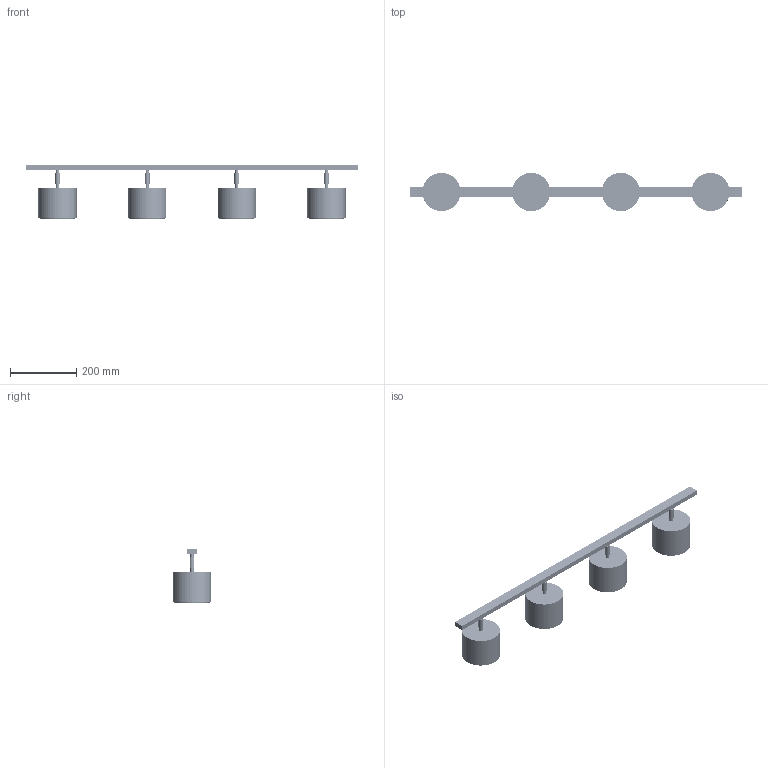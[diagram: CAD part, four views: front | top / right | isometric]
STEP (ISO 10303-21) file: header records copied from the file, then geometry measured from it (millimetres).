
FILE_DESCRIPTION ((), '1');
FILE_NAME ('C:\Users\MiCHAL\Desktop\ALDEX - Modele 3D 28.09.2022\1047PL_L\1047PL_L\1047PL_L.stp', '2022-11-08T00:33:50', ('Unknown'), ('Unknown'), 'HarmonyWare STEP v2.1.4', 'HarmonyWare Translators', '');
FILE_SCHEMA (('CONFIG_CONTROL_DESIGN'));
Length unit declared in the file: centimetre
Assembly tree (37 placements, depth 2):
  (unnamed)
    (unnamed)
    (unnamed)
    (unnamed)
    (unnamed)
    (unnamed)
    (unnamed)
    (unnamed)
    (unnamed)
    (unnamed)
    (unnamed)
    (unnamed)
    (unnamed)
    (unnamed)
    (unnamed)
    (unnamed)
    (unnamed)
    (unnamed)
    (unnamed)
    (unnamed)
    (unnamed)
    (unnamed)
    (unnamed)
    (unnamed)
    (unnamed)
    (unnamed)
    (unnamed)
    (unnamed)
    (unnamed)
    (unnamed)
    (unnamed)
    (unnamed)
    (unnamed)
    (unnamed)
    (unnamed)
    (unnamed)
    (unnamed)
    (unnamed)
Bounding box: 1000 x 115 x 164.76 mm (x, y, z)
Volume: 750454.2 mm3; surface area: 703527.8 mm2
Topology: 33 solids, 37 shells, 40653 faces, 63039 edges, 22452 vertices
Faces by surface type: bspline 40653
Entity records: 753260 total; most frequent: CARTESIAN_POINT 311216, ORIENTED_EDGE 125598, B_SPLINE_CURVE_WITH_KNOTS 63039, EDGE_CURVE 63039, EDGE_LOOP 40653, FACE_OUTER_BOUND 40653, B_SPLINE_SURFACE_WITH_KNOTS 40653, ADVANCED_FACE 40653
